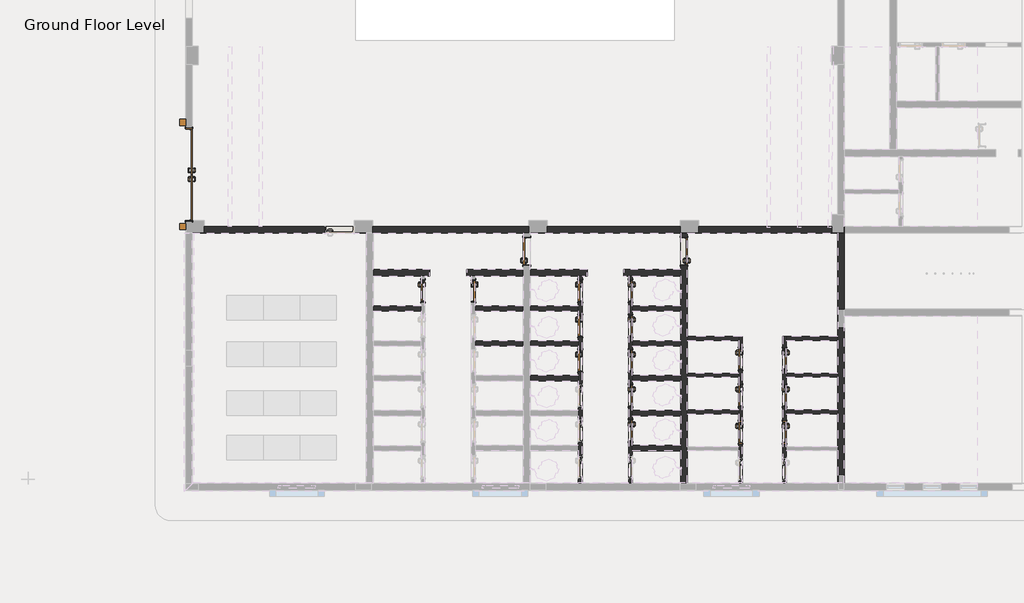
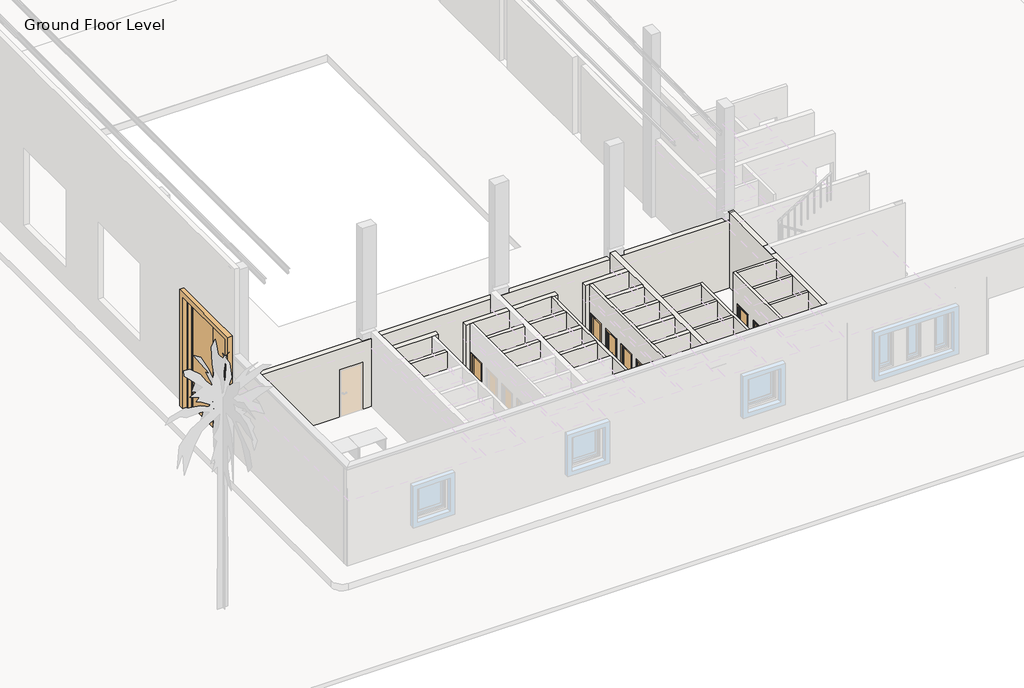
# One storey, part 2 of 23: 28 walls, 20 doors.
"""IFC4 building model written with IfcOpenShell, lengths in millimetres."""

from ifc_helpers import new_model, si_unit, frame, origin, place, context, project, spatial, polyline, outline, extrude, faceted_brep, transform, mapped, element, save
from components import door_batten_type_1_29d7f2da, int_double_flush_nz_3000_x5000_c8156784, int_single_flush_nz_700x_2100_d6161bae, int_single_flush_nz_700x_2100_e1d28701, int_single_flush_nz_900_x_2100_021ef152, int_single_flush_nz_900_x_2100_2a598139

model = new_model("IFC4")

# Units and contexts
model_context = context("Model", 3, world=origin())
ifc_project = project(units=[si_unit("LENGTHUNIT", "METRE", prefix="MILLI")], contexts=[model_context])

# Site, building, storey
site = spatial("IfcSite", under=ifc_project)
building = spatial("IfcBuilding", under=site)
storey = spatial("IfcBuildingStorey", under=building, Name="Ground Floor Level", Elevation=900.0)

# Doors
placement = place(None, origin())
door_batten_type_1_shape = door_batten_type_1_29d7f2da(model_context)
element("IfcDoor", 1, ObjectType="Door Batten : Type 1", at=placement, inside=storey, context=model_context, shape_type="MappedRepresentation", body=[
    mapped(door_batten_type_1_shape, transform((-21947.2327605, -30918.7796514, 3488.39557), x_axis=(0.0, -1.0, 0.0), y_axis=(1.0, 0.0, 0.0), z_axis=(0.0, 0.0, 1.0))),
])
int_double_flush_nz_3000_x5000_shape = int_double_flush_nz_3000_x5000_c8156784(model_context)
element("IfcDoor", 2, ObjectType="Int Double-Flush (NZ) : 3000 x5000", at=placement, inside=storey, context=model_context, shape_type="MappedRepresentation", body=[
    mapped(int_double_flush_nz_3000_x5000_shape, transform((-21947.2327605, -31054.7846466, 900.0), x_axis=(0.0, -1.0, 0.0), y_axis=(1.0, 0.0, 0.0), z_axis=(0.0, 0.0, 1.0))),
])
int_single_flush_nz_700x_2100_shape = int_single_flush_nz_700x_2100_d6161bae(model_context)
element("IfcDoor", 3, ObjectType="Int Single-Flush (NZ) : 700x 2100", at=placement, inside=storey, context=model_context, shape_type="MappedRepresentation", body=[
    mapped(int_single_flush_nz_700x_2100_shape, transform((-12660.5667605, -34928.7380966, 1000.0), x_axis=(0.0, -1.0, 0.0), y_axis=(1.0, 0.0, 0.0), z_axis=(0.0, 0.0, 1.0))),
])
element("IfcDoor", 4, ObjectType="Int Single-Flush (NZ) : 700x 2100", at=placement, inside=storey, context=model_context, shape_type="MappedRepresentation", body=[
    mapped(int_single_flush_nz_700x_2100_shape, transform((-7527.2347605, -34928.7380966, 1000.0), x_axis=(0.0, -1.0, 0.0), y_axis=(1.0, 0.0, 0.0), z_axis=(0.0, 0.0, 1.0))),
])
element("IfcDoor", 5, ObjectType="Int Single-Flush (NZ) : 700x 2100", at=placement, inside=storey, context=model_context, shape_type="MappedRepresentation", body=[
    mapped(int_single_flush_nz_700x_2100_shape, transform((-7527.2347605, -36072.7834416, 1000.0), x_axis=(0.0, -1.0, 0.0), y_axis=(1.0, 0.0, 0.0), z_axis=(0.0, 0.0, 1.0))),
])
element("IfcDoor", 6, ObjectType="Int Single-Flush (NZ) : 700x 2100", at=placement, inside=storey, context=model_context, shape_type="MappedRepresentation", body=[
    mapped(int_single_flush_nz_700x_2100_shape, transform((-7527.2347605, -37212.7833316, 1000.0), x_axis=(0.0, -1.0, 0.0), y_axis=(1.0, 0.0, 0.0), z_axis=(0.0, 0.0, 1.0))),
])
element("IfcDoor", 7, ObjectType="Int Single-Flush (NZ) : 700x 2100", at=placement, inside=storey, context=model_context, shape_type="MappedRepresentation", body=[
    mapped(int_single_flush_nz_700x_2100_shape, transform((-7527.2347605, -38352.7881216, 1000.0), x_axis=(0.0, -1.0, 0.0), y_axis=(1.0, 0.0, 0.0), z_axis=(0.0, 0.0, 1.0))),
])
element("IfcDoor", 8, ObjectType="Int Single-Flush (NZ) : 700x 2100", at=placement, inside=storey, context=model_context, shape_type="MappedRepresentation", body=[
    mapped(int_single_flush_nz_700x_2100_shape, transform((-7527.2347605, -39492.7977116, 1000.0), x_axis=(0.0, -1.0, 0.0), y_axis=(1.0, 0.0, 0.0), z_axis=(0.0, 0.0, 1.0))),
])
element("IfcDoor", 9, ObjectType="Int Single-Flush (NZ) : 700x 2100", at=placement, inside=storey, context=model_context, shape_type="MappedRepresentation", body=[
    mapped(int_single_flush_nz_700x_2100_shape, transform((-2496.7643824, -38350.7846466, 1000.0), x_axis=(0.0, -1.0, 0.0), y_axis=(1.0, 0.0, 0.0), z_axis=(0.0, 0.0, 1.0))),
])
element("IfcDoor", 10, ObjectType="Int Single-Flush (NZ) : 700x 2100", at=placement, inside=storey, context=model_context, shape_type="MappedRepresentation", body=[
    mapped(int_single_flush_nz_700x_2100_shape, transform((-2496.7643824, -39550.7846466, 1000.0), x_axis=(0.0, -1.0, 0.0), y_axis=(1.0, 0.0, 0.0), z_axis=(0.0, 0.0, 1.0))),
])
element("IfcDoor", 11, ObjectType="Int Single-Flush (NZ) : 700x 2100", at=placement, inside=storey, context=model_context, shape_type="MappedRepresentation", body=[
    mapped(int_single_flush_nz_700x_2100_shape, transform((-2496.7643824, -37150.7846466, 1000.0), x_axis=(0.0, -1.0, 0.0), y_axis=(1.0, 0.0, 0.0), z_axis=(0.0, 0.0, 1.0))),
])
int_single_flush_nz_700x_2100_2_shape = int_single_flush_nz_700x_2100_e1d28701(model_context)
element("IfcDoor", 12, ObjectType="Int Single-Flush (NZ) : 700x 2100", at=placement, inside=storey, context=model_context, shape_type="MappedRepresentation", body=[
    mapped(int_single_flush_nz_700x_2100_2_shape, transform((-14300.5667605, -34928.7380966, 1000.0), x_axis=(0.0, -1.0, 0.0), y_axis=(1.0, 0.0, 0.0), z_axis=(0.0, 0.0, 1.0))),
])
element("IfcDoor", 13, ObjectType="Int Single-Flush (NZ) : 700x 2100", at=placement, inside=storey, context=model_context, shape_type="MappedRepresentation", body=[
    mapped(int_single_flush_nz_700x_2100_2_shape, transform((-9167.2347605, -34928.7380966, 1000.0), x_axis=(0.0, -1.0, 0.0), y_axis=(1.0, 0.0, 0.0), z_axis=(0.0, 0.0, 1.0))),
])
element("IfcDoor", 14, ObjectType="Int Single-Flush (NZ) : 700x 2100", at=placement, inside=storey, context=model_context, shape_type="MappedRepresentation", body=[
    mapped(int_single_flush_nz_700x_2100_2_shape, transform((-9167.2347605, -36072.7834416, 1000.0), x_axis=(0.0, -1.0, 0.0), y_axis=(1.0, 0.0, 0.0), z_axis=(0.0, 0.0, 1.0))),
])
element("IfcDoor", 15, ObjectType="Int Single-Flush (NZ) : 700x 2100", at=placement, inside=storey, context=model_context, shape_type="MappedRepresentation", body=[
    mapped(int_single_flush_nz_700x_2100_2_shape, transform((-9167.2347605, -37212.7833316, 1000.0), x_axis=(0.0, -1.0, 0.0), y_axis=(1.0, 0.0, 0.0), z_axis=(0.0, 0.0, 1.0))),
])
element("IfcDoor", 16, ObjectType="Int Single-Flush (NZ) : 700x 2100", at=placement, inside=storey, context=model_context, shape_type="MappedRepresentation", body=[
    mapped(int_single_flush_nz_700x_2100_2_shape, transform((-3931.0371386, -37150.7846466, 1000.0), x_axis=(0.0, -1.0, 0.0), y_axis=(1.0, 0.0, 0.0), z_axis=(0.0, 0.0, 1.0))),
])
element("IfcDoor", 17, ObjectType="Int Single-Flush (NZ) : 700x 2100", at=placement, inside=storey, context=model_context, shape_type="MappedRepresentation", body=[
    mapped(int_single_flush_nz_700x_2100_2_shape, transform((-3931.0371386, -38350.7846466, 1000.0), x_axis=(0.0, -1.0, 0.0), y_axis=(1.0, 0.0, 0.0), z_axis=(0.0, 0.0, 1.0))),
])
element("IfcDoor", 18, ObjectType="Int Single-Flush (NZ) : 700x 2100", at=placement, inside=storey, context=model_context, shape_type="MappedRepresentation", body=[
    mapped(int_single_flush_nz_700x_2100_2_shape, transform((-3931.0371386, -39550.7846466, 1000.0), x_axis=(0.0, -1.0, 0.0), y_axis=(1.0, 0.0, 0.0), z_axis=(0.0, 0.0, 1.0))),
])
int_single_flush_nz_900_x_2100_shape = int_single_flush_nz_900_x_2100_021ef152(model_context)
element("IfcDoor", 19, ObjectType="Int Single-Flush (NZ) : 900 x 2100", at=placement, inside=storey, context=model_context, shape_type="MappedRepresentation", body=[
    mapped(int_single_flush_nz_900_x_2100_shape, transform((-10913.9007605, -33479.7386466, 1000.0), x_axis=(0.0, 1.0, 0.0), y_axis=(-1.0, 0.0, 0.0), z_axis=(0.0, 0.0, 1.0))),
])
int_single_flush_nz_900_x_2100_2_shape = int_single_flush_nz_900_x_2100_2a598139(model_context)
element("IfcDoor", 20, ObjectType="Int Single-Flush (NZ) : 900 x 2100", at=placement, inside=storey, context=model_context, shape_type="MappedRepresentation", body=[
    mapped(int_single_flush_nz_900_x_2100_2_shape, transform((-5780.5687605, -33479.7386466, 1000.0), x_axis=(0.0, 1.0, 0.0), y_axis=(-1.0, 0.0, 0.0), z_axis=(0.0, 0.0, 1.0))),
])

# Walls
element("IfcWall", 21, ObjectType="Exterior - Blockwork 200 Swimming Pool", at=placement, inside=storey, context=model_context, shape_type="Brep", body=[
    faceted_brep([(-537.2327605, -32964.7846466, 4100.0), (-757.2327605, -32964.7846466, 4100.0), (-21837.2327605, -32964.7846466, 4100.0), (-21837.2327605, -32964.7846466, 1000.0), (-17495.2327605, -32964.7846466, 1000.0), (-17495.2327605, -32964.7846466, 3119.0), (-16557.2327605, -32964.7846466, 3119.0), (-16557.2327605, -32964.7846466, 1000.0), (-16157.2327605, -32964.7846466, 1000.0), (-16147.2327605, -32964.7846466, 1000.0), (-16147.2327605, -32964.7846466, 900.0), (-15947.2327605, -32964.7846466, 900.0), (-15947.2327605, -32964.7846466, 1000.0), (-15937.2327605, -32964.7846466, 1000.0), (-757.2327605, -32964.7846466, 1000.0), (-747.2327605, -32964.7846466, 1000.0), (-747.2327605, -32964.7846466, 900.0), (-547.2327605, -32964.7846466, 900.0), (-537.2327605, -32964.7846466, 900.0), (-537.2327605, -32964.7846466, 1000.0), (-537.2327605, -32744.7846466, 4100.0), (-537.2327605, -32744.7846466, 1000.0), (-537.2327605, -32744.7846466, 900.0), (-547.2327605, -32744.7846466, 900.0), (-547.2327605, -32744.7846466, 1000.0), (-547.2327605, -32744.7846466, 4100.0), (-21447.2327605, -32744.7846466, 4100.0), (-16547.2327605, -32744.7846466, 4100.0), (-16547.2327605, -32744.7846466, 910.0), (-21447.2327605, -32744.7846466, 910.0), (-16557.2327605, -32744.7846466, 1000.0), (-16557.2327605, -32744.7846466, 3119.0), (-17495.2327605, -32744.7846466, 3119.0), (-17495.2327605, -32744.7846466, 1000.0), (-15947.2327605, -32744.7846466, 4100.0), (-10847.2327605, -32744.7846466, 4100.0), (-10847.2327605, -32744.7846466, 910.0), (-15947.2327605, -32744.7846466, 910.0), (-10247.2327605, -32744.7846466, 4100.0), (-5897.2327605, -32744.7846466, 4100.0), (-5897.2327605, -32744.7846466, 910.0), (-10247.2327605, -32744.7846466, 910.0), (-5297.2327605, -32744.7846466, 4100.0), (-947.2327605, -32744.7846466, 4100.0), (-947.2327605, -32744.7846466, 910.0), (-5297.2327605, -32744.7846466, 910.0), (-16147.2327605, -32954.7846466, 900.0), (-15947.2327605, -32954.7846466, 900.0), (-16547.2327605, -32954.7846466, 900.0), (-21447.2327605, -32954.7846466, 900.0), (-21447.2327605, -32754.7846466, 900.0), (-16547.2327605, -32754.7846466, 900.0), (-10847.2327605, -32954.7846466, 900.0), (-15947.2327605, -32754.7846466, 900.0), (-10847.2327605, -32754.7846466, 900.0), (-5897.2327605, -32954.7846466, 900.0), (-10247.2327605, -32954.7846466, 900.0), (-10247.2327605, -32754.7846466, 900.0), (-5897.2327605, -32754.7846466, 900.0), (-947.2327605, -32954.7846466, 900.0), (-5297.2327605, -32954.7846466, 900.0), (-5297.2327605, -32754.7846466, 900.0), (-947.2327605, -32754.7846466, 900.0), (-747.2327605, -32954.7846466, 900.0), (-547.2327605, -32954.7846466, 900.0), (-537.2327605, -32854.7846466, 4100.0), (-547.2327605, -32954.7846466, 4100.0), (-947.2327605, -32954.7846466, 4100.0), (-5297.2327605, -32954.7846466, 4100.0), (-5897.2327605, -32954.7846466, 4100.0), (-10247.2327605, -32954.7846466, 4100.0), (-10847.2327605, -32954.7846466, 4100.0), (-15947.2327605, -32954.7846466, 4100.0), (-16547.2327605, -32954.7846466, 4100.0), (-21447.2327605, -32954.7846466, 4100.0), (-21837.2327605, -32954.7846466, 4100.0), (-21837.2327605, -32954.7846466, 1000.0), (-21447.2327605, -32754.7846466, 910.0), (-21447.2327605, -32954.7846466, 1000.0), (-15947.2327605, -32754.7846466, 910.0), (-15947.2327605, -32954.7846466, 1000.0), (-16147.2327605, -32954.7846466, 1000.0), (-16547.2327605, -32954.7846466, 1000.0), (-16547.2327605, -32754.7846466, 910.0), (-10247.2327605, -32754.7846466, 910.0), (-10247.2327605, -32954.7846466, 1000.0), (-10847.2327605, -32954.7846466, 1000.0), (-10847.2327605, -32754.7846466, 910.0), (-5297.2327605, -32754.7846466, 910.0), (-5297.2327605, -32954.7846466, 1000.0), (-5897.2327605, -32954.7846466, 1000.0), (-5897.2327605, -32754.7846466, 910.0), (-747.2327605, -32954.7846466, 1000.0), (-947.2327605, -32954.7846466, 1000.0), (-947.2327605, -32754.7846466, 910.0), (-17495.2327605, -32954.7846466, 1000.0), (-16557.2327605, -32954.7846466, 1000.0), (-15947.2327605, -32954.7846466, 1000.0)], [[[0, 1, 2, 3, 4, 5, 6, 7, 8, 9, 10, 11, 12, 13, 14, 15, 16, 17, 18, 19]], [[20, 21, 22, 23, 24, 25]], [[26, 27, 28, 29], [30, 31, 32, 33]], [[34, 35, 36, 37]], [[38, 39, 40, 41]], [[42, 43, 44, 45]], [[46, 47, 11, 10]], [[48, 49, 50, 51]], [[52, 47, 53, 54]], [[55, 56, 57, 58]], [[59, 60, 61, 62]], [[22, 18, 17, 16, 63, 64, 23]], [[2, 1, 0, 65, 20, 25, 66, 67, 43, 42, 68, 69, 39, 38, 70, 71, 35, 34, 72, 73, 27, 26, 74, 75]], [[2, 75, 76, 3]], [[74, 26, 29, 77, 50, 49, 78]], [[75, 74, 78, 76]], [[72, 34, 37, 79, 53, 47, 80]], [[73, 72, 80, 47, 46, 81, 82]], [[27, 73, 82, 48, 51, 83, 28]], [[70, 38, 41, 84, 57, 56, 85]], [[71, 70, 85, 86]], [[35, 71, 86, 52, 54, 87, 36]], [[68, 42, 45, 88, 61, 60, 89]], [[69, 68, 89, 90]], [[39, 69, 90, 55, 58, 91, 40]], [[67, 66, 64, 63, 92, 93]], [[43, 67, 93, 59, 62, 94, 44]], [[0, 19, 18, 22, 21, 20, 65]], [[64, 66, 25, 24, 23]], [[4, 3, 76, 78, 95]], [[81, 9, 8, 7, 96, 82]], [[9, 81, 46, 10]], [[49, 48, 82, 96, 95, 78]], [[97, 86, 85, 90, 89, 93, 92, 15, 14, 13, 12]], [[15, 92, 63, 16]], [[47, 97, 12, 11]], [[90, 85, 56, 55]], [[93, 89, 60, 59]], [[97, 47, 52, 86]], [[83, 77, 29, 28]], [[87, 79, 37, 36]], [[91, 84, 41, 40]], [[94, 88, 45, 44]], [[77, 83, 51, 50]], [[79, 87, 54, 53]], [[84, 91, 58, 57]], [[88, 94, 62, 61]], [[7, 6, 31, 30, 96]], [[5, 4, 95, 33, 32]], [[30, 33, 95, 96]], [[5, 32, 31, 6]]]),
])
element("IfcWall", 22, ObjectType="Interior - Blockwork 200", at=placement, inside=storey, context=model_context, shape_type="Brep", body=[
    faceted_brep([(-5890.5687605, -32964.7846466, 900.0), (-5890.5687605, -34144.6926466, 900.0), (-5890.5687605, -34364.6926466, 900.0), (-5890.5687605, -35342.7835466, 900.0), (-5890.5687605, -35512.7835466, 900.0), (-5890.5687605, -36482.7833366, 900.0), (-5890.5687605, -36652.7833366, 900.0), (-5890.5687605, -37622.7833266, 900.0), (-5890.5687605, -37792.7833266, 900.0), (-5890.5687605, -38762.7929166, 900.0), (-5890.5687605, -38932.7929166, 900.0), (-5890.5687605, -39902.8025066, 900.0), (-5890.5687605, -40072.8025066, 900.0), (-5890.5687605, -41144.7846466, 900.0), (-5890.5687605, -41144.7846466, 4400.0), (-5890.5687605, -40072.8025066, 4400.0), (-5890.5687605, -39902.8025066, 4400.0), (-5890.5687605, -38932.7929166, 4400.0), (-5890.5687605, -38762.7929166, 4400.0), (-5890.5687605, -37792.7833266, 4400.0), (-5890.5687605, -37622.7833266, 4400.0), (-5890.5687605, -36652.7833366, 4400.0), (-5890.5687605, -36482.7833366, 4400.0), (-5890.5687605, -35512.7835466, 4400.0), (-5890.5687605, -35342.7835466, 4400.0), (-5890.5687605, -34364.6926466, 4400.0), (-5890.5687605, -34144.6926466, 4400.0), (-5890.5687605, -32964.7846466, 4400.0), (-5890.5687605, -33085.7386466, 1000.0), (-5890.5687605, -33085.7386466, 3119.0), (-5890.5687605, -34023.7386466, 3119.0), (-5890.5687605, -34023.7386466, 1000.0), (-5670.5687605, -41144.7846466, 900.0), (-5670.5687605, -40064.7846466, 900.0), (-5670.5687605, -39944.7846466, 900.0), (-5670.5687605, -38864.7846466, 900.0), (-5670.5687605, -38744.7846466, 900.0), (-5670.5687605, -37664.7846466, 900.0), (-5670.5687605, -37544.7846466, 900.0), (-5670.5687605, -36464.7846466, 900.0), (-5670.5687605, -36344.7846466, 900.0), (-5670.5687605, -32964.7846466, 900.0), (-5670.5687605, -32964.7846466, 4400.0), (-5670.5687605, -36344.7846466, 4400.0), (-5670.5687605, -36464.7846466, 4400.0), (-5670.5687605, -37544.7846466, 4400.0), (-5670.5687605, -37664.7846466, 4400.0), (-5670.5687605, -38744.7846466, 4400.0), (-5670.5687605, -38864.7846466, 4400.0), (-5670.5687605, -39944.7846466, 4400.0), (-5670.5687605, -40064.7846466, 4400.0), (-5670.5687605, -41144.7846466, 4400.0), (-5670.5687605, -33085.7386466, 3119.0), (-5670.5687605, -33085.7386466, 1000.0), (-5670.5687605, -34023.7386466, 1000.0), (-5670.5687605, -34023.7386466, 3119.0)], [[[0, 1, 2, 3, 4, 5, 6, 7, 8, 9, 10, 11, 12, 13, 14, 15, 16, 17, 18, 19, 20, 21, 22, 23, 24, 25, 26, 27], [28, 29, 30, 31]], [[32, 33, 34, 35, 36, 37, 38, 39, 40, 41, 42, 43, 44, 45, 46, 47, 48, 49, 50, 51], [52, 53, 54, 55]], [[13, 12, 11, 10, 9, 8, 7, 6, 5, 4, 3, 2, 1, 0, 41, 40, 39, 38, 37, 36, 35, 34, 33, 32]], [[14, 13, 32, 51]], [[27, 26, 25, 24, 23, 22, 21, 20, 19, 18, 17, 16, 15, 14, 51, 50, 49, 48, 47, 46, 45, 44, 43, 42]], [[0, 27, 42, 41]], [[28, 53, 52, 29]], [[30, 55, 54, 31]], [[53, 28, 31, 54]], [[55, 30, 29, 52]]]),
])
element("IfcWall", 23, ObjectType="Interior - Blockwork 200", at=placement, inside=storey, context=model_context, shape_type="Brep", body=[
    faceted_brep([(-10803.9007605, -34364.6926466, 900.0), (-9227.2347605, -34364.6926466, 900.0), (-9107.2347605, -34364.6926466, 900.0), (-8947.2347605, -34364.6926466, 900.0), (-8947.2347605, -34364.6926466, 4400.0), (-9107.2347605, -34364.6926466, 4400.0), (-9227.2347605, -34364.6926466, 4400.0), (-10803.9007605, -34364.6926466, 4400.0), (-10803.9007605, -34144.6926466, 900.0), (-10803.9007605, -34144.6926466, 4400.0), (-8947.2347605, -34144.6926466, 4400.0), (-8947.2347605, -34144.6926466, 900.0)], [[[0, 1, 2, 3, 4, 5, 6, 7]], [[8, 9, 10, 11]], [[3, 2, 1, 0, 8, 11]], [[4, 3, 11, 10]], [[0, 7, 9, 8]], [[7, 6, 5, 4, 10, 9]]]),
])
element("IfcWall", 24, ObjectType="Interior - Blockwork 200", at=placement, inside=storey, context=model_context, shape_type="Brep", body=[
    faceted_brep([(-7747.2347605, -34364.6926466, 900.0), (-7587.2347605, -34364.6926466, 900.0), (-7467.2347605, -34364.6926466, 900.0), (-5890.5687605, -34364.6926466, 900.0), (-5890.5687605, -34364.6926466, 4400.0), (-7467.2347605, -34364.6926466, 4400.0), (-7587.2347605, -34364.6926466, 4400.0), (-7747.2347605, -34364.6926466, 4400.0), (-7747.2347605, -34144.6926466, 900.0), (-7747.2347605, -34144.6926466, 4400.0), (-5890.5687605, -34144.6926466, 4400.0), (-5890.5687605, -34144.6926466, 900.0)], [[[0, 1, 2, 3, 4, 5, 6, 7]], [[8, 9, 10, 11]], [[3, 2, 1, 0, 8, 11]], [[0, 7, 9, 8]], [[4, 3, 11, 10]], [[7, 6, 5, 4, 10, 9]]]),
])
element("IfcWall", 25, ObjectType="Interior - Blockwork 200", at=placement, inside=storey, context=model_context, shape_type="Brep", body=[
    faceted_brep([(-15937.2327605, -34364.6926466, 900.0), (-14360.5667605, -34364.6926466, 900.0), (-14240.5667605, -34364.6926466, 900.0), (-14080.5667605, -34364.6926466, 900.0), (-14080.5667605, -34364.6926466, 4400.0), (-14240.5667605, -34364.6926466, 4400.0), (-14360.5667605, -34364.6926466, 4400.0), (-15937.2327605, -34364.6926466, 4400.0), (-15937.2327605, -34144.6926466, 900.0), (-15937.2327605, -34144.6926466, 4400.0), (-14080.5667605, -34144.6926466, 4400.0), (-14080.5667605, -34144.6926466, 900.0)], [[[0, 1, 2, 3, 4, 5, 6, 7]], [[8, 9, 10, 11]], [[3, 2, 1, 0, 8, 11]], [[4, 3, 11, 10]], [[0, 7, 9, 8]], [[7, 6, 5, 4, 10, 9]]]),
])
element("IfcWall", 26, ObjectType="Interior - Blockwork 200", at=placement, inside=storey, context=model_context, shape_type="Brep", body=[
    faceted_brep([(-12880.5667605, -34364.6926466, 900.0), (-12720.5667605, -34364.6926466, 900.0), (-12600.5667605, -34364.6926466, 900.0), (-11023.9007605, -34364.6926466, 900.0), (-11023.9007605, -34364.6926466, 4400.0), (-12600.5667605, -34364.6926466, 4400.0), (-12720.5667605, -34364.6926466, 4400.0), (-12880.5667605, -34364.6926466, 4400.0), (-12880.5667605, -34144.6926466, 900.0), (-12880.5667605, -34144.6926466, 4400.0), (-11023.9007605, -34144.6926466, 4400.0), (-11023.9007605, -34144.6926466, 900.0)], [[[0, 1, 2, 3, 4, 5, 6, 7]], [[8, 9, 10, 11]], [[3, 2, 1, 0, 8, 11]], [[0, 7, 9, 8]], [[4, 3, 11, 10]], [[7, 6, 5, 4, 10, 9]]]),
])
element("IfcWall", 27, ObjectType="Interior - Blockwork 200", at=placement, inside=storey, context=model_context, shape_type="Brep", body=[
    faceted_brep([(-757.2327605, -41144.7846466, 4400.0), (-757.2327605, -40064.7846466, 4400.0), (-757.2327605, -39944.7846466, 4400.0), (-757.2327605, -38864.7846466, 4400.0), (-757.2327605, -38744.7846466, 4400.0), (-757.2327605, -37664.7846466, 4400.0), (-757.2327605, -37544.7846466, 4400.0), (-757.2327605, -36464.7846466, 4400.0), (-757.2327605, -36344.7846466, 4400.0), (-757.2327605, -32854.7846466, 4400.0), (-757.2327605, -32854.7846466, 4100.0), (-757.2327605, -32964.7846466, 4100.0), (-757.2327605, -32964.7846466, 1000.0), (-757.2327605, -41144.7846466, 1000.0), (-537.2327605, -32854.7846466, 4400.0), (-537.2327605, -35444.7846466, 4400.0), (-537.2327605, -35664.7846466, 4400.0), (-537.2327605, -41144.7846466, 4400.0), (-537.2327605, -41144.7846466, 1000.0), (-537.2327605, -35664.7846466, 1000.0), (-537.2327605, -35654.7846466, 1000.0), (-537.2327605, -35654.7846466, 900.0), (-537.2327605, -35454.7846466, 900.0), (-537.2327605, -35454.7846466, 1000.0), (-537.2327605, -35444.7846466, 1000.0), (-537.2327605, -32964.7846466, 1000.0), (-537.2327605, -32964.7846466, 4100.0), (-537.2327605, -32854.7846466, 4100.0), (-547.2327605, -35454.7846466, 900.0), (-747.2327605, -35454.7846466, 900.0), (-747.2327605, -32964.7846466, 900.0), (-547.2327605, -32964.7846466, 900.0), (-747.2327605, -36054.7846466, 900.0), (-547.2327605, -36054.7846466, 900.0), (-547.2327605, -40854.7846466, 900.0), (-747.2327605, -40854.7846466, 900.0), (-547.2327605, -35654.7846466, 900.0), (-747.2327605, -41144.7846466, 4400.0), (-747.2327605, -41144.7846466, 1000.0), (-547.2327605, -41144.7846466, 4400.0), (-547.2327605, -41144.7846466, 1000.0), (-547.2327605, -36054.7846466, 4400.0), (-547.2327605, -35454.7846466, 4400.0), (-547.2327605, -35454.7846466, 1000.0), (-547.2327605, -35654.7846466, 1000.0), (-547.2327605, -36054.7846466, 1000.0), (-747.2327605, -36054.7846466, 1000.0), (-747.2327605, -36054.7846466, 4400.0), (-747.2327605, -35454.7846466, 4400.0), (-747.2327605, -35454.7846466, 1000.0), (-547.2327605, -40854.7846466, 4400.0), (-547.2327605, -40854.7846466, 1000.0), (-747.2327605, -40854.7846466, 4400.0), (-747.2327605, -40854.7846466, 1000.0), (-547.2327605, -32854.7846466, 4400.0), (-747.2327605, -32964.7846466, 1000.0), (-547.2327605, -35454.7846466, 1000.0), (-547.2327605, -32964.7846466, 1000.0), (-547.2327605, -32854.7846466, 4100.0)], [[[0, 1, 2, 3, 4, 5, 6, 7, 8, 9, 10, 11, 12, 13]], [[14, 15, 16, 17, 18, 19, 20, 21, 22, 23, 24, 25, 26, 27]], [[28, 29, 30, 31]], [[32, 33, 34, 35]], [[36, 28, 22, 21]], [[37, 0, 13, 38]], [[17, 39, 40, 18]], [[41, 42, 43, 28, 36, 44, 45]], [[33, 32, 46, 47, 41, 45]], [[48, 47, 46, 49]], [[29, 28, 43, 42, 48, 49]], [[39, 50, 51, 40]], [[52, 37, 38, 53]], [[35, 34, 51, 50, 52, 53]], [[9, 8, 7, 6, 5, 4, 3, 2, 1, 0, 37, 52, 50, 39, 17, 16, 15, 14, 54], [42, 41, 47, 48]], [[46, 53, 38, 13, 12, 55, 49]], [[53, 46, 32, 35]], [[49, 55, 30, 29]], [[51, 45, 44, 20, 19, 18, 40]], [[45, 51, 34, 33]], [[20, 44, 36, 21]], [[56, 57, 25, 24, 23]], [[28, 56, 23, 22]], [[57, 56, 28, 31]], [[10, 9, 54, 14, 27, 58]], [[10, 58, 27, 26, 11]], [[11, 26, 25, 57, 31, 30, 55, 12]]]),
])
element("IfcWall", 28, ObjectType="Interior -Blockwork 100mm", at=placement, inside=storey, context=model_context, shape_type="Brep", body=[
    faceted_brep([(-9227.2347605, -34364.6926466, 900.0), (-9227.2347605, -35342.7835466, 900.0), (-9227.2347605, -35512.7835466, 900.0), (-9227.2347605, -36482.7833366, 900.0), (-9227.2347605, -36652.7833366, 900.0), (-9227.2347605, -37622.7833266, 900.0), (-9227.2347605, -37792.7833266, 900.0), (-9227.2347605, -38762.7929166, 900.0), (-9227.2347605, -38932.7929166, 900.0), (-9227.2347605, -39902.8025066, 900.0), (-9227.2347605, -40072.8025066, 900.0), (-9227.2347605, -41144.7846466, 900.0), (-9227.2347605, -41144.7846466, 4400.0), (-9227.2347605, -40072.8025066, 4400.0), (-9227.2347605, -39902.8025066, 4400.0), (-9227.2347605, -38932.7929166, 4400.0), (-9227.2347605, -38762.7929166, 4400.0), (-9227.2347605, -37792.7833266, 4400.0), (-9227.2347605, -37622.7833266, 4400.0), (-9227.2347605, -36652.7833366, 4400.0), (-9227.2347605, -36482.7833366, 4400.0), (-9227.2347605, -35512.7835466, 4400.0), (-9227.2347605, -35342.7835466, 4400.0), (-9227.2347605, -34364.6926466, 4400.0), (-9227.2347605, -35222.7380966, 3119.0), (-9227.2347605, -35222.7380966, 1000.0), (-9227.2347605, -34484.7380966, 1000.0), (-9227.2347605, -34484.7380966, 3119.0), (-9227.2347605, -36366.7834416, 3119.0), (-9227.2347605, -36366.7834416, 1000.0), (-9227.2347605, -35628.7834416, 1000.0), (-9227.2347605, -35628.7834416, 3119.0), (-9227.2347605, -37506.7833316, 3119.0), (-9227.2347605, -37506.7833316, 1000.0), (-9227.2347605, -36768.7833316, 1000.0), (-9227.2347605, -36768.7833316, 3119.0), (-9227.2347605, -38646.7881216, 3119.0), (-9227.2347605, -38646.7881216, 1000.0), (-9227.2347605, -37908.7881216, 1000.0), (-9227.2347605, -37908.7881216, 3119.0), (-9227.2347605, -39786.7977116, 3119.0), (-9227.2347605, -39786.7977116, 1000.0), (-9227.2347605, -39048.7977116, 1000.0), (-9227.2347605, -39048.7977116, 3119.0), (-9227.2347605, -40977.7935766, 3119.0), (-9227.2347605, -40977.7935766, 1000.0), (-9227.2347605, -40239.7935766, 1000.0), (-9227.2347605, -40239.7935766, 3119.0), (-9107.2347605, -41144.7846466, 900.0), (-9107.2347605, -34364.6926466, 900.0), (-9107.2347605, -34364.6926466, 4400.0), (-9107.2347605, -41144.7846466, 4400.0), (-9107.2347605, -35222.7380966, 1000.0), (-9107.2347605, -35222.7380966, 3119.0), (-9107.2347605, -34484.7380966, 3119.0), (-9107.2347605, -34484.7380966, 1000.0), (-9107.2347605, -36366.7834416, 1000.0), (-9107.2347605, -36366.7834416, 3119.0), (-9107.2347605, -35628.7834416, 3119.0), (-9107.2347605, -35628.7834416, 1000.0), (-9107.2347605, -37506.7833316, 1000.0), (-9107.2347605, -37506.7833316, 3119.0), (-9107.2347605, -36768.7833316, 3119.0), (-9107.2347605, -36768.7833316, 1000.0), (-9107.2347605, -38646.7881216, 1000.0), (-9107.2347605, -38646.7881216, 3119.0), (-9107.2347605, -37908.7881216, 3119.0), (-9107.2347605, -37908.7881216, 1000.0), (-9107.2347605, -39786.7977116, 1000.0), (-9107.2347605, -39786.7977116, 3119.0), (-9107.2347605, -39048.7977116, 3119.0), (-9107.2347605, -39048.7977116, 1000.0), (-9107.2347605, -40977.7935766, 1000.0), (-9107.2347605, -40977.7935766, 3119.0), (-9107.2347605, -40239.7935766, 3119.0), (-9107.2347605, -40239.7935766, 1000.0)], [[[0, 1, 2, 3, 4, 5, 6, 7, 8, 9, 10, 11, 12, 13, 14, 15, 16, 17, 18, 19, 20, 21, 22, 23], [24, 25, 26, 27], [28, 29, 30, 31], [32, 33, 34, 35], [36, 37, 38, 39], [40, 41, 42, 43], [44, 45, 46, 47]], [[48, 49, 50, 51], [52, 53, 54, 55], [56, 57, 58, 59], [60, 61, 62, 63], [64, 65, 66, 67], [68, 69, 70, 71], [72, 73, 74, 75]], [[11, 10, 9, 8, 7, 6, 5, 4, 3, 2, 1, 0, 49, 48]], [[0, 23, 50, 49]], [[12, 11, 48, 51]], [[23, 22, 21, 20, 19, 18, 17, 16, 15, 14, 13, 12, 51, 50]], [[52, 25, 24, 53]], [[53, 24, 27, 54]], [[26, 55, 54, 27]], [[25, 52, 55, 26]], [[56, 29, 28, 57]], [[57, 28, 31, 58]], [[30, 59, 58, 31]], [[29, 56, 59, 30]], [[60, 33, 32, 61]], [[61, 32, 35, 62]], [[34, 63, 62, 35]], [[33, 60, 63, 34]], [[64, 37, 36, 65]], [[65, 36, 39, 66]], [[38, 67, 66, 39]], [[37, 64, 67, 38]], [[68, 41, 40, 69]], [[69, 40, 43, 70]], [[42, 71, 70, 43]], [[41, 68, 71, 42]], [[72, 45, 44, 73]], [[73, 44, 47, 74]], [[74, 47, 46, 75]], [[45, 72, 75, 46]]]),
])
element("IfcWall", 29, ObjectType="Interior -Blockwork 100mm", at=placement, inside=storey, context=model_context, shape_type="Brep", body=[
    faceted_brep([(-7587.2347605, -34364.6926466, 900.0), (-7587.2347605, -41144.7846466, 900.0), (-7587.2347605, -41144.7846466, 4400.0), (-7587.2347605, -34364.6926466, 4400.0), (-7587.2347605, -35222.7380966, 3119.0), (-7587.2347605, -35222.7380966, 1000.0), (-7587.2347605, -34484.7380966, 1000.0), (-7587.2347605, -34484.7380966, 3119.0), (-7587.2347605, -36366.7834416, 3119.0), (-7587.2347605, -36366.7834416, 1000.0), (-7587.2347605, -35628.7834416, 1000.0), (-7587.2347605, -35628.7834416, 3119.0), (-7587.2347605, -37506.7833316, 3119.0), (-7587.2347605, -37506.7833316, 1000.0), (-7587.2347605, -36768.7833316, 1000.0), (-7587.2347605, -36768.7833316, 3119.0), (-7587.2347605, -38646.7881216, 3119.0), (-7587.2347605, -38646.7881216, 1000.0), (-7587.2347605, -37908.7881216, 1000.0), (-7587.2347605, -37908.7881216, 3119.0), (-7587.2347605, -39786.7977116, 3119.0), (-7587.2347605, -39786.7977116, 1000.0), (-7587.2347605, -39048.7977116, 1000.0), (-7587.2347605, -39048.7977116, 3119.0), (-7587.2347605, -40977.7935766, 3119.0), (-7587.2347605, -40977.7935766, 1000.0), (-7587.2347605, -40239.7935766, 1000.0), (-7587.2347605, -40239.7935766, 3119.0), (-7467.2347605, -41144.7846466, 900.0), (-7467.2347605, -40072.8025066, 900.0), (-7467.2347605, -39902.8025066, 900.0), (-7467.2347605, -38932.7929166, 900.0), (-7467.2347605, -38762.7929166, 900.0), (-7467.2347605, -37792.7833266, 900.0), (-7467.2347605, -37622.7833266, 900.0), (-7467.2347605, -36652.7833366, 900.0), (-7467.2347605, -36482.7833366, 900.0), (-7467.2347605, -35512.7835466, 900.0), (-7467.2347605, -35342.7835466, 900.0), (-7467.2347605, -34364.6926466, 900.0), (-7467.2347605, -34364.6926466, 4400.0), (-7467.2347605, -35342.7835466, 4400.0), (-7467.2347605, -35512.7835466, 4400.0), (-7467.2347605, -36482.7833366, 4400.0), (-7467.2347605, -36652.7833366, 4400.0), (-7467.2347605, -37622.7833266, 4400.0), (-7467.2347605, -37792.7833266, 4400.0), (-7467.2347605, -38762.7929166, 4400.0), (-7467.2347605, -38932.7929166, 4400.0), (-7467.2347605, -39902.8025066, 4400.0), (-7467.2347605, -40072.8025066, 4400.0), (-7467.2347605, -41144.7846466, 4400.0), (-7467.2347605, -35222.7380966, 1000.0), (-7467.2347605, -35222.7380966, 3119.0), (-7467.2347605, -34484.7380966, 3119.0), (-7467.2347605, -34484.7380966, 1000.0), (-7467.2347605, -36366.7834416, 1000.0), (-7467.2347605, -36366.7834416, 3119.0), (-7467.2347605, -35628.7834416, 3119.0), (-7467.2347605, -35628.7834416, 1000.0), (-7467.2347605, -37506.7833316, 1000.0), (-7467.2347605, -37506.7833316, 3119.0), (-7467.2347605, -36768.7833316, 3119.0), (-7467.2347605, -36768.7833316, 1000.0), (-7467.2347605, -38646.7881216, 1000.0), (-7467.2347605, -38646.7881216, 3119.0), (-7467.2347605, -37908.7881216, 3119.0), (-7467.2347605, -37908.7881216, 1000.0), (-7467.2347605, -39786.7977116, 1000.0), (-7467.2347605, -39786.7977116, 3119.0), (-7467.2347605, -39048.7977116, 3119.0), (-7467.2347605, -39048.7977116, 1000.0), (-7467.2347605, -40977.7935766, 1000.0), (-7467.2347605, -40977.7935766, 3119.0), (-7467.2347605, -40239.7935766, 3119.0), (-7467.2347605, -40239.7935766, 1000.0)], [[[0, 1, 2, 3], [4, 5, 6, 7], [8, 9, 10, 11], [12, 13, 14, 15], [16, 17, 18, 19], [20, 21, 22, 23], [24, 25, 26, 27]], [[28, 29, 30, 31, 32, 33, 34, 35, 36, 37, 38, 39, 40, 41, 42, 43, 44, 45, 46, 47, 48, 49, 50, 51], [52, 53, 54, 55], [56, 57, 58, 59], [60, 61, 62, 63], [64, 65, 66, 67], [68, 69, 70, 71], [72, 73, 74, 75]], [[1, 0, 39, 38, 37, 36, 35, 34, 33, 32, 31, 30, 29, 28]], [[0, 3, 40, 39]], [[2, 1, 28, 51]], [[3, 2, 51, 50, 49, 48, 47, 46, 45, 44, 43, 42, 41, 40]], [[52, 5, 4, 53]], [[53, 4, 7, 54]], [[6, 55, 54, 7]], [[5, 52, 55, 6]], [[56, 9, 8, 57]], [[57, 8, 11, 58]], [[10, 59, 58, 11]], [[9, 56, 59, 10]], [[60, 13, 12, 61]], [[61, 12, 15, 62]], [[14, 63, 62, 15]], [[13, 60, 63, 14]], [[64, 17, 16, 65]], [[65, 16, 19, 66]], [[18, 67, 66, 19]], [[17, 64, 67, 18]], [[68, 21, 20, 69]], [[69, 20, 23, 70]], [[22, 71, 70, 23]], [[21, 68, 71, 22]], [[72, 25, 24, 73]], [[73, 24, 27, 74]], [[74, 27, 26, 75]], [[25, 72, 75, 26]]]),
])
element("IfcWall", 30, ObjectType="Interior -Blockwork 100mm", at=placement, inside=storey, context=model_context, shape_type="Brep", body=[
    faceted_brep([(-3991.0371386, -36344.7846466, 900.0), (-3991.0371386, -36464.7846466, 900.0), (-3991.0371386, -37544.7846466, 900.0), (-3991.0371386, -37664.7846466, 900.0), (-3991.0371386, -38744.7846466, 900.0), (-3991.0371386, -38864.7846466, 900.0), (-3991.0371386, -39944.7846466, 900.0), (-3991.0371386, -40064.7846466, 900.0), (-3991.0371386, -41144.7846466, 900.0), (-3991.0371386, -41144.7846466, 4400.0), (-3991.0371386, -40064.7846466, 4400.0), (-3991.0371386, -39944.7846466, 4400.0), (-3991.0371386, -38864.7846466, 4400.0), (-3991.0371386, -38744.7846466, 4400.0), (-3991.0371386, -37664.7846466, 4400.0), (-3991.0371386, -37544.7846466, 4400.0), (-3991.0371386, -36464.7846466, 4400.0), (-3991.0371386, -36344.7846466, 4400.0), (-3991.0371386, -37444.7846466, 3119.0), (-3991.0371386, -37444.7846466, 1000.0), (-3991.0371386, -36706.7846466, 1000.0), (-3991.0371386, -36706.7846466, 3119.0), (-3991.0371386, -38644.7846466, 3119.0), (-3991.0371386, -38644.7846466, 1000.0), (-3991.0371386, -37906.7846466, 1000.0), (-3991.0371386, -37906.7846466, 3119.0), (-3991.0371386, -39844.7846466, 3119.0), (-3991.0371386, -39844.7846466, 1000.0), (-3991.0371386, -39106.7846466, 1000.0), (-3991.0371386, -39106.7846466, 3119.0), (-3991.0371386, -41044.7846466, 3119.0), (-3991.0371386, -41044.7846466, 1000.0), (-3991.0371386, -40306.7846466, 1000.0), (-3991.0371386, -40306.7846466, 3119.0), (-3871.0371386, -41144.7846466, 900.0), (-3871.0371386, -36344.7846466, 900.0), (-3871.0371386, -36344.7846466, 4400.0), (-3871.0371386, -41144.7846466, 4400.0), (-3871.0371386, -37444.7846466, 1000.0), (-3871.0371386, -37444.7846466, 3119.0), (-3871.0371386, -36706.7846466, 3119.0), (-3871.0371386, -36706.7846466, 1000.0), (-3871.0371386, -38644.7846466, 1000.0), (-3871.0371386, -38644.7846466, 3119.0), (-3871.0371386, -37906.7846466, 3119.0), (-3871.0371386, -37906.7846466, 1000.0), (-3871.0371386, -39844.7846466, 1000.0), (-3871.0371386, -39844.7846466, 3119.0), (-3871.0371386, -39106.7846466, 3119.0), (-3871.0371386, -39106.7846466, 1000.0), (-3871.0371386, -41044.7846466, 1000.0), (-3871.0371386, -41044.7846466, 3119.0), (-3871.0371386, -40306.7846466, 3119.0), (-3871.0371386, -40306.7846466, 1000.0)], [[[0, 1, 2, 3, 4, 5, 6, 7, 8, 9, 10, 11, 12, 13, 14, 15, 16, 17], [18, 19, 20, 21], [22, 23, 24, 25], [26, 27, 28, 29], [30, 31, 32, 33]], [[34, 35, 36, 37], [38, 39, 40, 41], [42, 43, 44, 45], [46, 47, 48, 49], [50, 51, 52, 53]], [[8, 7, 6, 5, 4, 3, 2, 1, 0, 35, 34]], [[0, 17, 36, 35]], [[9, 8, 34, 37]], [[17, 16, 15, 14, 13, 12, 11, 10, 9, 37, 36]], [[38, 19, 18, 39]], [[39, 18, 21, 40]], [[20, 41, 40, 21]], [[19, 38, 41, 20]], [[42, 23, 22, 43]], [[43, 22, 25, 44]], [[24, 45, 44, 25]], [[23, 42, 45, 24]], [[46, 27, 26, 47]], [[47, 26, 29, 48]], [[28, 49, 48, 29]], [[27, 46, 49, 28]], [[50, 31, 30, 51]], [[51, 30, 33, 52]], [[52, 33, 32, 53]], [[31, 50, 53, 32]]]),
])
element("IfcWall", 31, ObjectType="Interior -Blockwork 100mm", at=placement, inside=storey, context=model_context, shape_type="Brep", body=[
    faceted_brep([(-2556.7643824, -36344.7846466, 900.0), (-2556.7643824, -41144.7846466, 900.0), (-2556.7643824, -41144.7846466, 4400.0), (-2556.7643824, -36344.7846466, 4400.0), (-2556.7643824, -38644.7846466, 3119.0), (-2556.7643824, -38644.7846466, 1000.0), (-2556.7643824, -37906.7846466, 1000.0), (-2556.7643824, -37906.7846466, 3119.0), (-2556.7643824, -39844.7846466, 3119.0), (-2556.7643824, -39844.7846466, 1000.0), (-2556.7643824, -39106.7846466, 1000.0), (-2556.7643824, -39106.7846466, 3119.0), (-2556.7643824, -41044.7846466, 3119.0), (-2556.7643824, -41044.7846466, 1000.0), (-2556.7643824, -40306.7846466, 1000.0), (-2556.7643824, -40306.7846466, 3119.0), (-2556.7643824, -37444.7846466, 3119.0), (-2556.7643824, -37444.7846466, 1000.0), (-2556.7643824, -36706.7846466, 1000.0), (-2556.7643824, -36706.7846466, 3119.0), (-2436.7643824, -41144.7846466, 900.0), (-2436.7643824, -40064.7846466, 900.0), (-2436.7643824, -39944.7846466, 900.0), (-2436.7643824, -38864.7846466, 900.0), (-2436.7643824, -38744.7846466, 900.0), (-2436.7643824, -37664.7846466, 900.0), (-2436.7643824, -37544.7846466, 900.0), (-2436.7643824, -36464.7846466, 900.0), (-2436.7643824, -36344.7846466, 900.0), (-2436.7643824, -36344.7846466, 4400.0), (-2436.7643824, -36464.7846466, 4400.0), (-2436.7643824, -37544.7846466, 4400.0), (-2436.7643824, -37664.7846466, 4400.0), (-2436.7643824, -38744.7846466, 4400.0), (-2436.7643824, -38864.7846466, 4400.0), (-2436.7643824, -39944.7846466, 4400.0), (-2436.7643824, -40064.7846466, 4400.0), (-2436.7643824, -41144.7846466, 4400.0), (-2436.7643824, -38644.7846466, 1000.0), (-2436.7643824, -38644.7846466, 3119.0), (-2436.7643824, -37906.7846466, 3119.0), (-2436.7643824, -37906.7846466, 1000.0), (-2436.7643824, -39844.7846466, 1000.0), (-2436.7643824, -39844.7846466, 3119.0), (-2436.7643824, -39106.7846466, 3119.0), (-2436.7643824, -39106.7846466, 1000.0), (-2436.7643824, -41044.7846466, 1000.0), (-2436.7643824, -41044.7846466, 3119.0), (-2436.7643824, -40306.7846466, 3119.0), (-2436.7643824, -40306.7846466, 1000.0), (-2436.7643824, -37444.7846466, 1000.0), (-2436.7643824, -37444.7846466, 3119.0), (-2436.7643824, -36706.7846466, 3119.0), (-2436.7643824, -36706.7846466, 1000.0)], [[[0, 1, 2, 3], [4, 5, 6, 7], [8, 9, 10, 11], [12, 13, 14, 15], [16, 17, 18, 19]], [[20, 21, 22, 23, 24, 25, 26, 27, 28, 29, 30, 31, 32, 33, 34, 35, 36, 37], [38, 39, 40, 41], [42, 43, 44, 45], [46, 47, 48, 49], [50, 51, 52, 53]], [[1, 0, 28, 27, 26, 25, 24, 23, 22, 21, 20]], [[0, 3, 29, 28]], [[2, 1, 20, 37]], [[3, 2, 37, 36, 35, 34, 33, 32, 31, 30, 29]], [[38, 5, 4, 39]], [[39, 4, 7, 40]], [[6, 41, 40, 7]], [[5, 38, 41, 6]], [[42, 9, 8, 43]], [[43, 8, 11, 44]], [[10, 45, 44, 11]], [[9, 42, 45, 10]], [[46, 13, 12, 47]], [[47, 12, 15, 48]], [[14, 49, 48, 15]], [[13, 46, 49, 14]], [[50, 17, 16, 51]], [[51, 16, 19, 52]], [[52, 19, 18, 53]], [[17, 50, 53, 18]]]),
])
element("IfcWall", 32, ObjectType="Interior -Blockwork 100mm", at=placement, inside=storey, context=model_context, shape_type="SweptSolid", body=[
    extrude(outline(polyline([(-3991.0371386, -38864.7846466), (-5670.5687605, -38864.7846466), (-5670.5687605, -38744.7846466), (-3991.0371386, -38744.7846466), (-3991.0371386, -38864.7846466)])), frame((0.0, 0.0, 900.0), z_axis=(0.0, 0.0, 1.0), x_axis=(1.0, 0.0, 0.0)), (0.0, 0.0, 1.0), 3500.0),
])
element("IfcWall", 33, ObjectType="Interior -Blockwork 100mm", at=placement, inside=storey, context=model_context, shape_type="SweptSolid", body=[
    extrude(outline(polyline([(-3991.0371386, -37664.7846466), (-5670.5687605, -37664.7846466), (-5670.5687605, -37544.7846466), (-3991.0371386, -37544.7846466), (-3991.0371386, -37664.7846466)])), frame((0.0, 0.0, 900.0), z_axis=(0.0, 0.0, 1.0), x_axis=(1.0, 0.0, 0.0)), (0.0, 0.0, 1.0), 3500.0),
])
element("IfcWall", 34, ObjectType="Interior -Blockwork 100mm", at=placement, inside=storey, context=model_context, shape_type="SweptSolid", body=[
    extrude(outline(polyline([(-3991.0371386, -36464.7846466), (-5670.5687605, -36464.7846466), (-5670.5687605, -36344.7846466), (-3991.0371386, -36344.7846466), (-3991.0371386, -36464.7846466)])), frame((0.0, 0.0, 900.0), z_axis=(0.0, 0.0, 1.0), x_axis=(1.0, 0.0, 0.0)), (0.0, 0.0, 1.0), 3500.0),
])
element("IfcWall", 35, ObjectType="Interior -Blockwork 100mm", at=placement, inside=storey, context=model_context, shape_type="SweptSolid", body=[
    extrude(outline(polyline([(-757.2327605, -38864.7846466), (-2436.7643824, -38864.7846466), (-2436.7643824, -38744.7846466), (-757.2327605, -38744.7846466), (-757.2327605, -38864.7846466)])), frame((0.0, 0.0, 900.0), z_axis=(0.0, 0.0, 1.0), x_axis=(1.0, 0.0, 0.0)), (0.0, 0.0, 1.0), 3500.0),
])
element("IfcWall", 36, ObjectType="Interior -Blockwork 100mm", at=placement, inside=storey, context=model_context, shape_type="SweptSolid", body=[
    extrude(outline(polyline([(-757.2327605, -37664.7846466), (-2436.7643824, -37664.7846466), (-2436.7643824, -37544.7846466), (-757.2327605, -37544.7846466), (-757.2327605, -37664.7846466)])), frame((0.0, 0.0, 900.0), z_axis=(0.0, 0.0, 1.0), x_axis=(1.0, 0.0, 0.0)), (0.0, 0.0, 1.0), 3500.0),
])
element("IfcWall", 37, ObjectType="Interior -Blockwork 100mm", at=placement, inside=storey, context=model_context, shape_type="SweptSolid", body=[
    extrude(outline(polyline([(-757.2327605, -36464.7846466), (-2436.7643824, -36464.7846466), (-2436.7643824, -36344.7846466), (-757.2327605, -36344.7846466), (-757.2327605, -36464.7846466)])), frame((0.0, 0.0, 900.0), z_axis=(0.0, 0.0, 1.0), x_axis=(1.0, 0.0, 0.0)), (0.0, 0.0, 1.0), 3500.0),
])
element("IfcWall", 38, ObjectType="Interior -Blockwork 150mm", at=placement, inside=storey, context=model_context, shape_type="SweptSolid", body=[
    extrude(outline(polyline([(-14360.5667605, -35512.7835466), (-15937.2327605, -35512.7835466), (-15937.2327605, -35342.7835466), (-14360.5667605, -35342.7835466), (-14360.5667605, -35512.7835466)])), frame((0.0, 0.0, 900.0), z_axis=(0.0, 0.0, 1.0), x_axis=(1.0, 0.0, 0.0)), (0.0, 0.0, 1.0), 3500.0),
])
element("IfcWall", 39, ObjectType="Interior -Blockwork 150mm", at=placement, inside=storey, context=model_context, shape_type="SweptSolid", body=[
    extrude(outline(polyline([(-12600.5667605, -36482.7833366), (-11023.9007605, -36482.7833366), (-11023.9007605, -36652.7833366), (-12600.5667605, -36652.7833366), (-12600.5667605, -36482.7833366)])), frame((0.0, 0.0, 900.0), z_axis=(0.0, 0.0, 1.0), x_axis=(1.0, 0.0, 0.0)), (0.0, 0.0, 1.0), 3500.0),
])
element("IfcWall", 40, ObjectType="Interior -Blockwork 150mm", at=placement, inside=storey, context=model_context, shape_type="SweptSolid", body=[
    extrude(outline(polyline([(-12600.5667605, -35342.7835466), (-11023.9007605, -35342.7835466), (-11023.9007605, -35512.7835466), (-12600.5667605, -35512.7835466), (-12600.5667605, -35342.7835466)])), frame((0.0, 0.0, 900.0), z_axis=(0.0, 0.0, 1.0), x_axis=(1.0, 0.0, 0.0)), (0.0, 0.0, 1.0), 3500.0),
])
element("IfcWall", 41, ObjectType="Interior -Blockwork 150mm", at=placement, inside=storey, context=model_context, shape_type="SweptSolid", body=[
    extrude(outline(polyline([(-9227.2347605, -35512.7835466), (-10803.9007605, -35512.7835466), (-10803.9007605, -35342.7835466), (-9227.2347605, -35342.7835466), (-9227.2347605, -35512.7835466)])), frame((0.0, 0.0, 900.0), z_axis=(0.0, 0.0, 1.0), x_axis=(1.0, 0.0, 0.0)), (0.0, 0.0, 1.0), 3500.0),
])
element("IfcWall", 42, ObjectType="Interior -Blockwork 150mm", at=placement, inside=storey, context=model_context, shape_type="SweptSolid", body=[
    extrude(outline(polyline([(-9227.2347605, -36652.7833366), (-10803.9007605, -36652.7833366), (-10803.9007605, -36482.7833366), (-9227.2347605, -36482.7833366), (-9227.2347605, -36652.7833366)])), frame((0.0, 0.0, 900.0), z_axis=(0.0, 0.0, 1.0), x_axis=(1.0, 0.0, 0.0)), (0.0, 0.0, 1.0), 3500.0),
])
element("IfcWall", 43, ObjectType="Interior -Blockwork 150mm", at=placement, inside=storey, context=model_context, shape_type="SweptSolid", body=[
    extrude(outline(polyline([(-9227.2347605, -37792.7833266), (-10803.9007605, -37792.7833266), (-10803.9007605, -37622.7833266), (-9227.2347605, -37622.7833266), (-9227.2347605, -37792.7833266)])), frame((0.0, 0.0, 900.0), z_axis=(0.0, 0.0, 1.0), x_axis=(1.0, 0.0, 0.0)), (0.0, 0.0, 1.0), 3500.0),
])
element("IfcWall", 44, ObjectType="Interior -Blockwork 150mm", at=placement, inside=storey, context=model_context, shape_type="SweptSolid", body=[
    extrude(outline(polyline([(-5890.5687605, -40072.8025066), (-7467.2347605, -40072.8025066), (-7467.2347605, -39902.8025066), (-5890.5687605, -39902.8025066), (-5890.5687605, -40072.8025066)])), frame((0.0, 0.0, 900.0), z_axis=(0.0, 0.0, 1.0), x_axis=(1.0, 0.0, 0.0)), (0.0, 0.0, 1.0), 3500.0),
])
element("IfcWall", 45, ObjectType="Interior -Blockwork 150mm", at=placement, inside=storey, context=model_context, shape_type="SweptSolid", body=[
    extrude(outline(polyline([(-5890.5687605, -38932.7929166), (-7467.2347605, -38932.7929166), (-7467.2347605, -38762.7929166), (-5890.5687605, -38762.7929166), (-5890.5687605, -38932.7929166)])), frame((0.0, 0.0, 900.0), z_axis=(0.0, 0.0, 1.0), x_axis=(1.0, 0.0, 0.0)), (0.0, 0.0, 1.0), 3500.0),
])
element("IfcWall", 46, ObjectType="Interior -Blockwork 150mm", at=placement, inside=storey, context=model_context, shape_type="SweptSolid", body=[
    extrude(outline(polyline([(-5890.5687605, -37792.7833266), (-7467.2347605, -37792.7833266), (-7467.2347605, -37622.7833266), (-5890.5687605, -37622.7833266), (-5890.5687605, -37792.7833266)])), frame((0.0, 0.0, 900.0), z_axis=(0.0, 0.0, 1.0), x_axis=(1.0, 0.0, 0.0)), (0.0, 0.0, 1.0), 3500.0),
])
element("IfcWall", 47, ObjectType="Interior -Blockwork 150mm", at=placement, inside=storey, context=model_context, shape_type="SweptSolid", body=[
    extrude(outline(polyline([(-5890.5687605, -36652.7833366), (-7467.2347605, -36652.7833366), (-7467.2347605, -36482.7833366), (-5890.5687605, -36482.7833366), (-5890.5687605, -36652.7833366)])), frame((0.0, 0.0, 900.0), z_axis=(0.0, 0.0, 1.0), x_axis=(1.0, 0.0, 0.0)), (0.0, 0.0, 1.0), 3500.0),
])
element("IfcWall", 48, ObjectType="Interior -Blockwork 150mm", at=placement, inside=storey, context=model_context, shape_type="SweptSolid", body=[
    extrude(outline(polyline([(-7467.2347605, -35342.7835466), (-5890.5687605, -35342.7835466), (-5890.5687605, -35512.7835466), (-7467.2347605, -35512.7835466), (-7467.2347605, -35342.7835466)])), frame((0.0, 0.0, 900.0), z_axis=(0.0, 0.0, 1.0), x_axis=(1.0, 0.0, 0.0)), (0.0, 0.0, 1.0), 3500.0),
])

save(model, "model.ifc")
